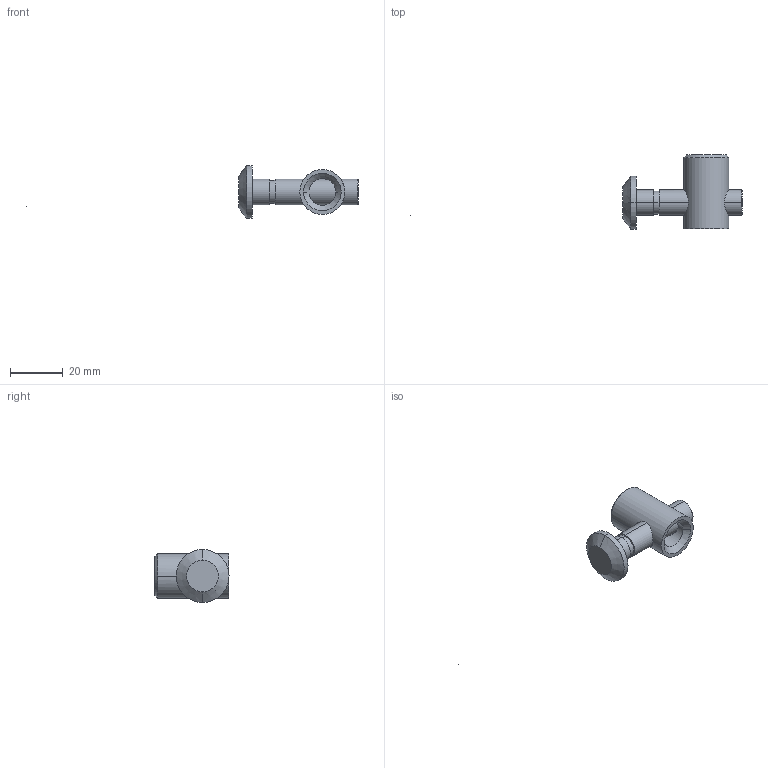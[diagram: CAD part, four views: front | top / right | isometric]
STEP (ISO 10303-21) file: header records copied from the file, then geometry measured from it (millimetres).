
FILE_DESCRIPTION (( 'STEP AP203' ), '1' );
FILE_NAME ('5216.STEP', '2016-04-25T06:34:28', ( 'RosInstal-MKM' ), ( '' ), 'SwSTEP 2.0', 'SolidWorks 2014', '' );
FILE_SCHEMA (( 'CONFIG_CONTROL_DESIGN' ));
Length unit declared in the file: millimetre
Products named in the file (4): øëÿïà; 2; 謥踙摳; 5216
Assembly tree (3 placements, depth 2):
  5216
    øëÿïà
    2
    謥踙摳
Bounding box: 125.41 x 28 x 20 mm (x, y, z)
Volume: 8250.9 mm3; surface area: 5356.6 mm2
Topology: 4 solids, 4 shells, 61 faces, 140 edges, 90 vertices
Faces by surface type: plane 29, cylinder 18, cone 10, torus 2, bspline 2
Entity records: 2660 total; most frequent: CARTESIAN_POINT 883, DIRECTION 286, ORIENTED_EDGE 280, EDGE_CURVE 140, AXIS2_PLACEMENT_3D 113, VERTEX_POINT 90, EDGE_LOOP 70, ADVANCED_FACE 61
